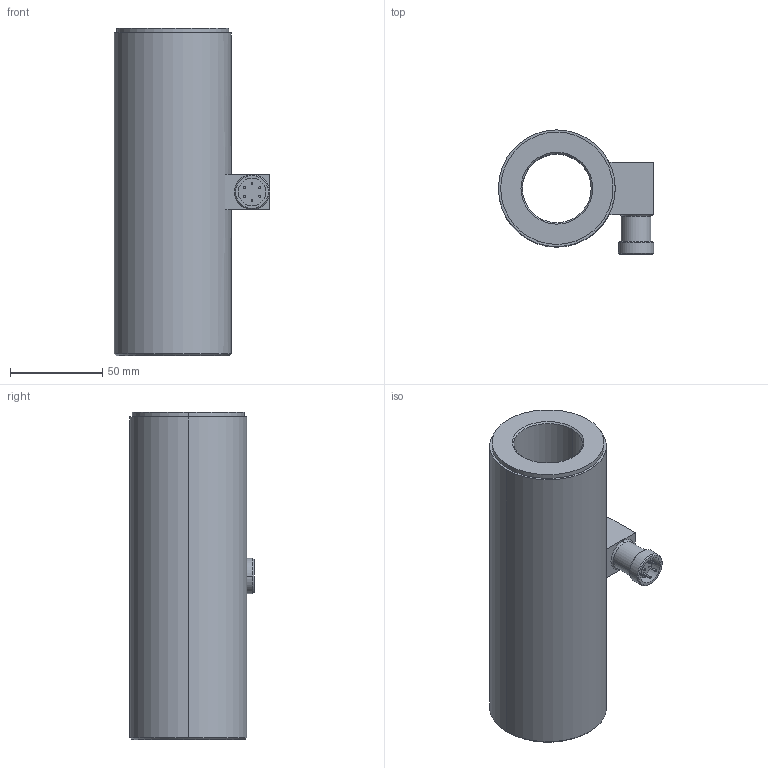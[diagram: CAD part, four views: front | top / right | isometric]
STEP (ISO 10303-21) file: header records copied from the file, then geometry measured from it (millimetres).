
FILE_DESCRIPTION(('STEP AP203'),'1');
FILE_NAME('C:/TPO v2/SharedFS/Outgoing/burster_85082-100_d9xix0wdzg1b2zxn2059opmye.stp','2013-08-27T18:48:42',('TraceParts'),('TraceParts S.A.'),'XStep 1.0',' ',' ');
FILE_SCHEMA(('CONFIG_CONTROL_DESIGN'));
Length unit declared in the file: millimetre
Products named in the file (1): 1
Bounding box: 84.35 x 67.4 x 177.8 mm (x, y, z)
Volume: 383013.6 mm3; surface area: 64317.5 mm2
Topology: 7 solids, 7 shells, 69 faces, 134 edges, 85 vertices
Faces by surface type: cylinder 28, plane 25, cone 14, torus 2
Entity records: 1821 total; most frequent: DIRECTION 355, CARTESIAN_POINT 289, ORIENTED_EDGE 268, AXIS2_PLACEMENT_3D 151, EDGE_CURVE 134, VERTEX_POINT 85, CIRCLE 81, EDGE_LOOP 77
